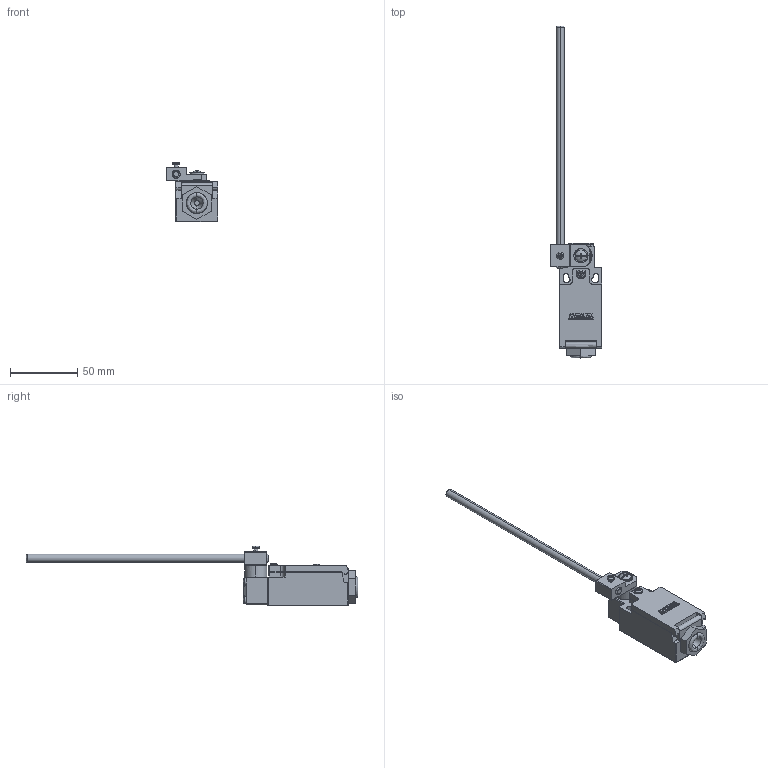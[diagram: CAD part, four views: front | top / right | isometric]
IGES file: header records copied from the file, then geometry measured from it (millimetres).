
Start section: SolidWorks IGES file using analytic representation for surfaces
Global section: file name: D:\X - Arquivos\PROEX\Empresas\P11 - METALTEX\01 - Produtos\IGES\4ª remessa\5ª etapa\FM9207.IGS; native system: SolidWorks 2012; preprocessor: SolidWorks 2012; author: Usuario; date: 180601.135710; units: millimetre
Bounding box: 38.65 x 246.8 x 44.4 mm (x, y, z)
Surface area: 17645.7 mm2 (no closed solid volume)
Topology: 0 solids, 0 shells, 412 faces, 3529 edges, 3525 vertices
Faces by surface type: bspline 326, revolution 86
